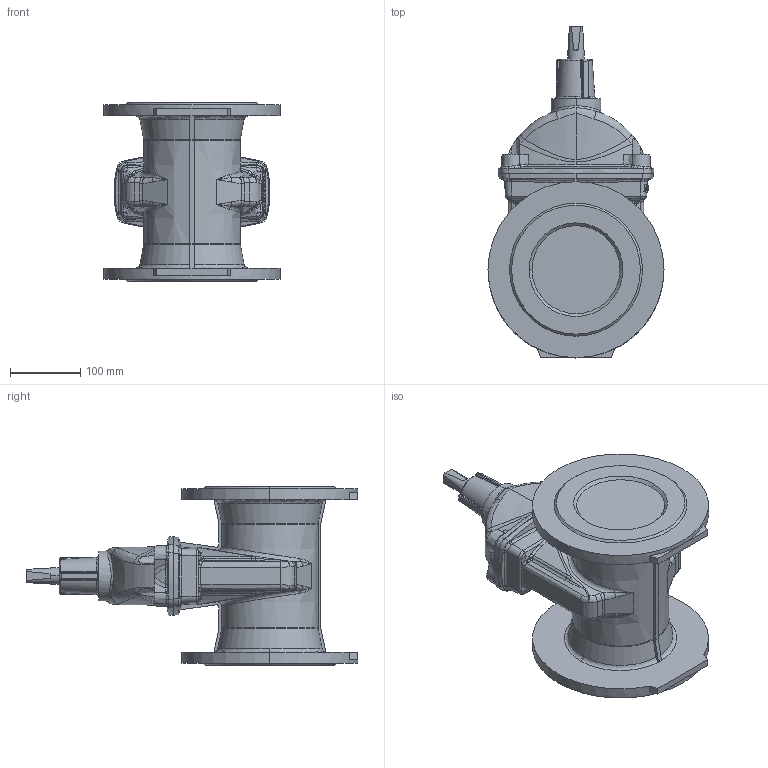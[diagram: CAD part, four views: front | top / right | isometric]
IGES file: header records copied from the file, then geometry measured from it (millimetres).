
Start section: SolidWorks IGES file using analytic representation for surfaces
Global section: file name: C:\Users\qida\Desktop\kerrie.qian\02_20 outline drawing\DN125\O_02_20_DN125_XXXXX9.IGS; native system: SolidWorks 2012; preprocessor: SolidWorks 2012; author: qida; date: 140714.153922; units: millimetre
Bounding box: 250 x 471.26 x 254 mm (x, y, z)
Volume: 7717704.9 mm3; surface area: 407797.4 mm2
Topology: 1 solids, 1 shells, 632 faces, 1577 edges, 948 vertices
Faces by surface type: bspline 271, revolution 201, plane 160
